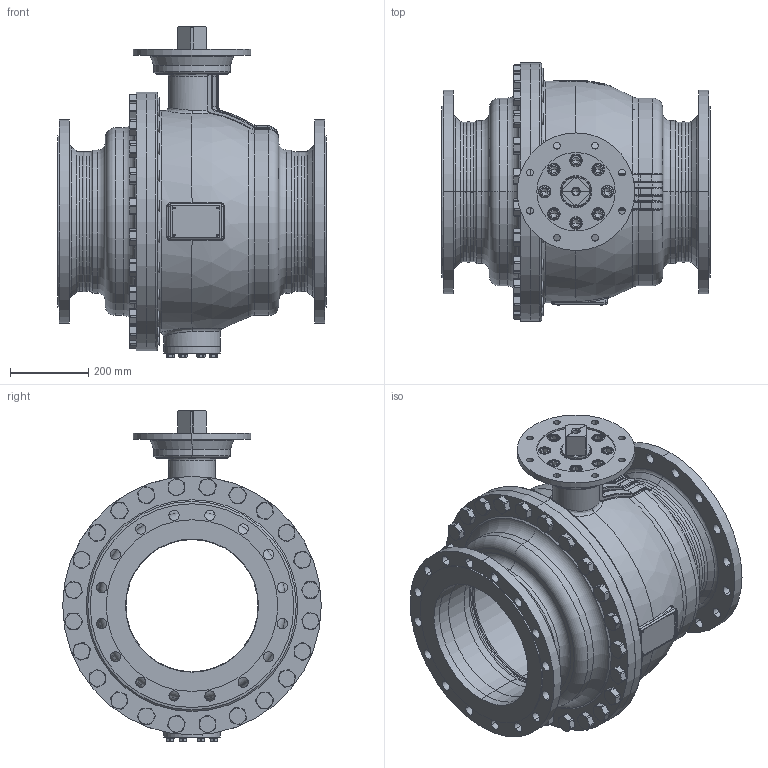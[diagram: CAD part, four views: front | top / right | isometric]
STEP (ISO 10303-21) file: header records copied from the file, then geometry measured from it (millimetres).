
FILE_DESCRIPTION((''),'2;1');
FILE_NAME('KHI-F_350_PN016-F25-4_SW0001','2026-02-05T15:24:59',('fischerkl'),('KLINGER'),'CREO PARAMETRIC BY PTC INC, 2023014','CREO PARAMETRIC BY PTC INC, 2023014','');
FILE_SCHEMA(('CONFIG_CONTROL_DESIGN'));
Products named in the file (1): KHI-F_350_PN016-F25-4_SW0001
Bounding box: 686 x 660 x 842.8 mm (x, y, z)
Volume: 42495178.5 mm3; surface area: 5850130.4 mm2
Topology: 1 solids, 4 shells, 3389 faces, 8552 edges, 5337 vertices
Faces by surface type: plane 1732, cylinder 789, cone 448, torus 291, bspline 99, sphere 30
Entity records: 143019 total; most frequent: CARTESIAN_POINT 62241, ORIENTED_EDGE 17052, DIRECTION 16733, EDGE_CURVE 8526, AXIS2_PLACEMENT_3D 6378, VERTEX_POINT 5337, VECTOR 3977, LINE 3977
